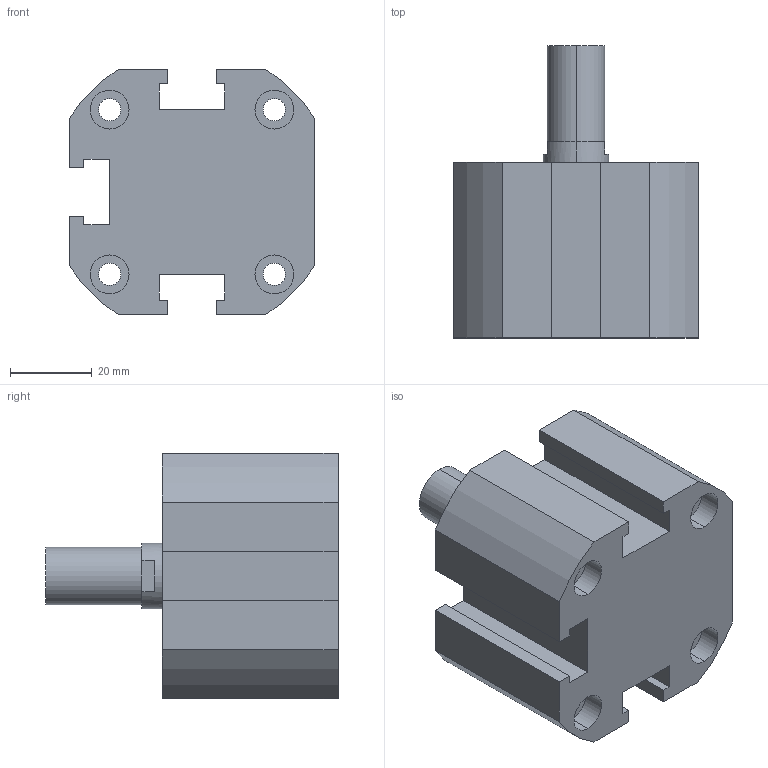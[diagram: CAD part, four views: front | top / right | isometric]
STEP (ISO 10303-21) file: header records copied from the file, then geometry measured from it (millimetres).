
FILE_DESCRIPTION (( 'STEP AP203' ), '1' );
FILE_NAME ('XC#M2-40D-10.STEP', '2016-05-23T08:45:43', ( '' ), ( '' ), 'SwSTEP 2.0', 'SolidWorks 2014', '' );
FILE_SCHEMA (( 'CONFIG_CONTROL_DESIGN' ));
Length unit declared in the file: millimetre
Products named in the file (1): XC#M2-40D-10
Bounding box: 60 x 71.5 x 60 mm (x, y, z)
Volume: 122017.9 mm3; surface area: 24296.9 mm2
Topology: 1 solids, 1 shells, 114 faces, 283 edges, 184 vertices
Faces by surface type: cylinder 54, plane 52, cone 8
Entity records: 3490 total; most frequent: DIRECTION 631, CARTESIAN_POINT 578, ORIENTED_EDGE 558, EDGE_CURVE 279, AXIS2_PLACEMENT_3D 237, VERTEX_POINT 184, LINE 157, VECTOR 157
